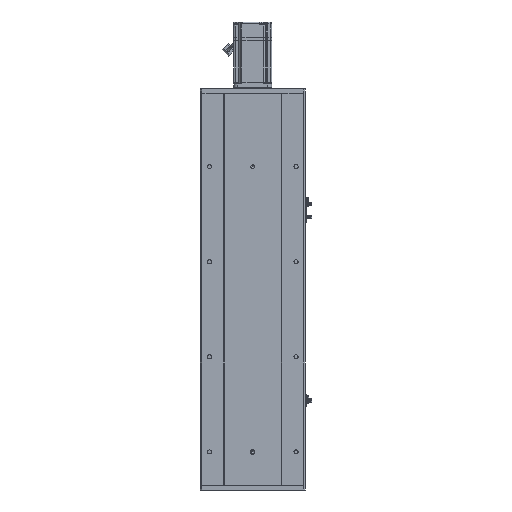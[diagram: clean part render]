
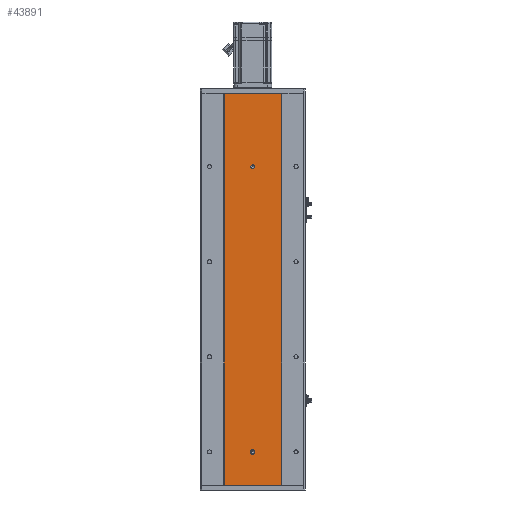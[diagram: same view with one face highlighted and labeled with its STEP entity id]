
A CAD part, front view. The second image highlights one B-rep face of the part: STEP entity #43891.
In plain terms, the highlighted planar face has unit normal (0, -1, 0).
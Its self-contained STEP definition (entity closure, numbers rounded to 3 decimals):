
#570 = CARTESIAN_POINT ( 'NONE',  ( -60., 0., 824. ) ) ;
#731 = LINE ( 'NONE', #24925, #13490 ) ;
#3040 = CARTESIAN_POINT ( 'NONE',  ( 0., 0., 64.5 ) ) ;
#4036 = EDGE_CURVE ( 'NONE', #37651, #39218, #60860, .T. ) ;
#4207 = AXIS2_PLACEMENT_3D ( 'NONE', #570, #36443, #31057 ) ;
#4214 = AXIS2_PLACEMENT_3D ( 'NONE', #26049, #10926, #41874 ) ;
#4441 = CARTESIAN_POINT ( 'NONE',  ( 0., 0., 670. ) ) ;
#5057 = FACE_BOUND ( 'NONE', #59957, .T. ) ;
#5061 = CARTESIAN_POINT ( 'NONE',  ( 60., 0., 824. ) ) ;
#5503 = ORIENTED_EDGE ( 'NONE', *, *, #46071, .F. ) ;
#5701 = DIRECTION ( 'NONE',  ( 0., -1., 0. ) ) ;
#5890 = VECTOR ( 'NONE', #7838, 1000. ) ;
#6145 = CARTESIAN_POINT ( 'NONE',  ( 4., 0., 71.5 ) ) ;
#6753 = CARTESIAN_POINT ( 'NONE',  ( 0., 0., 674. ) ) ;
#7179 = CARTESIAN_POINT ( 'NONE',  ( 4., 0., 68.5 ) ) ;
#7838 = DIRECTION ( 'NONE',  ( 0., 0., -1. ) ) ;
#8284 = CARTESIAN_POINT ( 'NONE',  ( -60., 0., 824. ) ) ;
#8353 = EDGE_CURVE ( 'NONE', #39218, #56702, #19962, .T. ) ;
#10168 = DIRECTION ( 'NONE',  ( 0., 0., -1. ) ) ;
#10926 = DIRECTION ( 'NONE',  ( 0., -1., 0. ) ) ;
#11971 = VERTEX_POINT ( 'NONE', #6753 ) ;
#12136 = DIRECTION ( 'NONE',  ( 0., 0., -1. ) ) ;
#13233 = CARTESIAN_POINT ( 'NONE',  ( 4., 0., 71.5 ) ) ;
#13490 = VECTOR ( 'NONE', #40094, 1000. ) ;
#13795 = FACE_OUTER_BOUND ( 'NONE', #28641, .T. ) ;
#14053 = CARTESIAN_POINT ( 'NONE',  ( 60., 0., 0. ) ) ;
#14362 = VERTEX_POINT ( 'NONE', #5061 ) ;
#16338 = CIRCLE ( 'NONE', #23081, 4. ) ;
#16359 = DIRECTION ( 'NONE',  ( 1., 0., 0. ) ) ;
#16575 = CARTESIAN_POINT ( 'NONE',  ( -60., 0., 0. ) ) ;
#17560 = VERTEX_POINT ( 'NONE', #7179 ) ;
#18503 = DIRECTION ( 'NONE',  ( 0., 0., -1. ) ) ;
#19884 = EDGE_CURVE ( 'NONE', #22483, #17560, #16338, .T. ) ;
#19962 = LINE ( 'NONE', #16575, #30244 ) ;
#20202 = ORIENTED_EDGE ( 'NONE', *, *, #26491, .F. ) ;
#20891 = VERTEX_POINT ( 'NONE', #65843 ) ;
#21179 = CARTESIAN_POINT ( 'NONE',  ( 0., 0., 666. ) ) ;
#21725 = DIRECTION ( 'NONE',  ( 0., 0., -1. ) ) ;
#22193 = ORIENTED_EDGE ( 'NONE', *, *, #4036, .T. ) ;
#22483 = VERTEX_POINT ( 'NONE', #3040 ) ;
#22746 = CARTESIAN_POINT ( 'NONE',  ( 60., 0., 824. ) ) ;
#22951 = CARTESIAN_POINT ( 'NONE',  ( -60., 0., 0. ) ) ;
#22974 = EDGE_CURVE ( 'NONE', #20891, #54644, #65913, .T. ) ;
#23081 = AXIS2_PLACEMENT_3D ( 'NONE', #52892, #62699, #21725 ) ;
#24920 = DIRECTION ( 'NONE',  ( 0., -1., 0. ) ) ;
#24925 = CARTESIAN_POINT ( 'NONE',  ( -60., 0., 824. ) ) ;
#25292 = CARTESIAN_POINT ( 'NONE',  ( 0., 0., 68.5 ) ) ;
#25624 = CARTESIAN_POINT ( 'NONE',  ( -4., 0., 68.5 ) ) ;
#26049 = CARTESIAN_POINT ( 'NONE',  ( 0., 0., 670. ) ) ;
#26195 = EDGE_CURVE ( 'NONE', #14362, #56702, #49982, .T. ) ;
#26491 = EDGE_CURVE ( 'NONE', #59151, #11971, #40416, .T. ) ;
#26823 = AXIS2_PLACEMENT_3D ( 'NONE', #33696, #38871, #39093 ) ;
#28327 = LINE ( 'NONE', #6145, #52250 ) ;
#28382 = VECTOR ( 'NONE', #12136, 1000. ) ;
#28641 = EDGE_LOOP ( 'NONE', ( #31351, #54762, #5503, #22193 ) ) ;
#30244 = VECTOR ( 'NONE', #16359, 1000. ) ;
#30440 = DIRECTION ( 'NONE',  ( 0., 0., -1. ) ) ;
#30481 = ORIENTED_EDGE ( 'NONE', *, *, #36180, .F. ) ;
#31057 = DIRECTION ( 'NONE',  ( 0., 0., 1. ) ) ;
#31351 = ORIENTED_EDGE ( 'NONE', *, *, #8353, .T. ) ;
#33493 = EDGE_CURVE ( 'NONE', #52833, #20891, #44097, .T. ) ;
#33696 = CARTESIAN_POINT ( 'NONE',  ( 0., 0., 71.5 ) ) ;
#36180 = EDGE_CURVE ( 'NONE', #17560, #52833, #28327, .T. ) ;
#36443 = DIRECTION ( 'NONE',  ( 0., 1., 0. ) ) ;
#37247 = ORIENTED_EDGE ( 'NONE', *, *, #33493, .F. ) ;
#37651 = VERTEX_POINT ( 'NONE', #42375 ) ;
#38871 = DIRECTION ( 'NONE',  ( 0., -1., 0. ) ) ;
#39093 = DIRECTION ( 'NONE',  ( 0., 0., -1. ) ) ;
#39218 = VERTEX_POINT ( 'NONE', #22951 ) ;
#40094 = DIRECTION ( 'NONE',  ( 1., 0., 0. ) ) ;
#40416 = CIRCLE ( 'NONE', #52114, 4. ) ;
#41874 = DIRECTION ( 'NONE',  ( 0., 0., -1. ) ) ;
#42174 = ORIENTED_EDGE ( 'NONE', *, *, #22974, .F. ) ;
#42375 = CARTESIAN_POINT ( 'NONE',  ( -60., 0., 824. ) ) ;
#43891 = ADVANCED_FACE ( 'NONE', ( #5057, #48901, #13795 ), #46719, .F. ) ;
#44097 = CIRCLE ( 'NONE', #26823, 4. ) ;
#44221 = CARTESIAN_POINT ( 'NONE',  ( -4., 0., 71.5 ) ) ;
#44369 = AXIS2_PLACEMENT_3D ( 'NONE', #25292, #5701, #10168 ) ;
#46071 = EDGE_CURVE ( 'NONE', #37651, #14362, #731, .T. ) ;
#46193 = ORIENTED_EDGE ( 'NONE', *, *, #19884, .F. ) ;
#46484 = DIRECTION ( 'NONE',  ( 0., 0., 1. ) ) ;
#46719 = PLANE ( 'NONE',  #4207 ) ;
#48901 = FACE_BOUND ( 'NONE', #61299, .T. ) ;
#49982 = LINE ( 'NONE', #22746, #63572 ) ;
#52114 = AXIS2_PLACEMENT_3D ( 'NONE', #4441, #24920, #30440 ) ;
#52250 = VECTOR ( 'NONE', #46484, 1000. ) ;
#52833 = VERTEX_POINT ( 'NONE', #13233 ) ;
#52892 = CARTESIAN_POINT ( 'NONE',  ( 0., 0., 68.5 ) ) ;
#54558 = EDGE_CURVE ( 'NONE', #11971, #59151, #65650, .T. ) ;
#54644 = VERTEX_POINT ( 'NONE', #25624 ) ;
#54762 = ORIENTED_EDGE ( 'NONE', *, *, #26195, .F. ) ;
#56702 = VERTEX_POINT ( 'NONE', #14053 ) ;
#58471 = ORIENTED_EDGE ( 'NONE', *, *, #54558, .F. ) ;
#58521 = CIRCLE ( 'NONE', #44369, 4. ) ;
#59151 = VERTEX_POINT ( 'NONE', #21179 ) ;
#59220 = ORIENTED_EDGE ( 'NONE', *, *, #61478, .F. ) ;
#59957 = EDGE_LOOP ( 'NONE', ( #20202, #58471 ) ) ;
#60860 = LINE ( 'NONE', #8284, #5890 ) ;
#61299 = EDGE_LOOP ( 'NONE', ( #42174, #37247, #30481, #46193, #59220 ) ) ;
#61478 = EDGE_CURVE ( 'NONE', #54644, #22483, #58521, .T. ) ;
#62699 = DIRECTION ( 'NONE',  ( 0., -1., 0. ) ) ;
#63572 = VECTOR ( 'NONE', #18503, 1000. ) ;
#65650 = CIRCLE ( 'NONE', #4214, 4. ) ;
#65843 = CARTESIAN_POINT ( 'NONE',  ( -4., 0., 71.5 ) ) ;
#65913 = LINE ( 'NONE', #44221, #28382 ) ;
